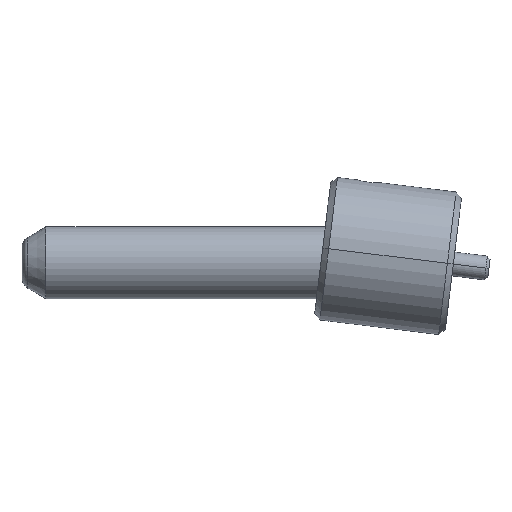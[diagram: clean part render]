
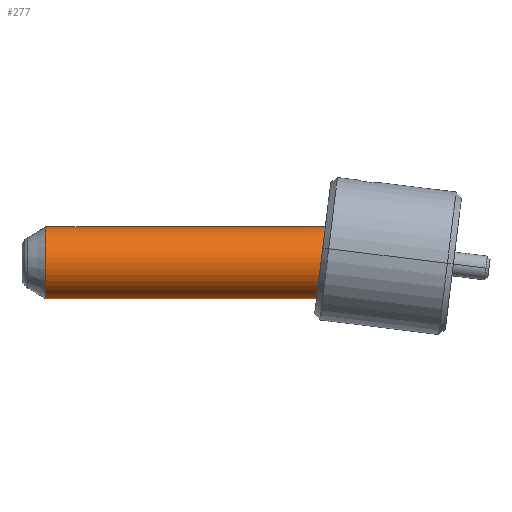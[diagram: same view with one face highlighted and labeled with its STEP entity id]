
A CAD part, left-side view. The second image highlights one B-rep face of the part: STEP entity #277.
In plain terms, the highlighted cylindrical face has radius 6 mm (diameter 12 mm), a partial arc.
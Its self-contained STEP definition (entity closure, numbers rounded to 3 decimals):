
#132=CARTESIAN_POINT('Vertex',(0.,-6.,-1.)) ;
#139=CARTESIAN_POINT('Vertex',(0.,6.,-1.)) ;
#159=CARTESIAN_POINT('Axis2P3D Location',(0.,0.,-1.)) ;
#176=CARTESIAN_POINT('Line Origine',(0.,6.,3.4)) ;
#180=CARTESIAN_POINT('Vertex',(0.,6.,-8.)) ;
#183=CARTESIAN_POINT('Line Origine',(0.,-6.,3.4)) ;
#187=CARTESIAN_POINT('Vertex',(0.,-6.,-64.)) ;
#206=CARTESIAN_POINT('Vertex',(0.,6.,-64.)) ;
#209=CARTESIAN_POINT('Line Origine',(0.,6.,3.4)) ;
#213=CARTESIAN_POINT('Vertex',(0.,6.,-12.)) ;
#242=CARTESIAN_POINT('Axis2P3D Location',(0.,0.,3.4)) ;
#247=CARTESIAN_POINT('Axis2P3D Location',(0.,0.,-64.)) ;
#253=CARTESIAN_POINT('Control Point',(0.,6.,-8.)) ;
#254=CARTESIAN_POINT('Control Point',(-0.274,6.,-8.)) ;
#255=CARTESIAN_POINT('Control Point',(-0.544,5.984,-8.046)) ;
#256=CARTESIAN_POINT('Control Point',(-0.808,5.953,-8.14)) ;
#257=CARTESIAN_POINT('Control Point',(-1.344,5.86,-8.442)) ;
#258=CARTESIAN_POINT('Control Point',(-1.735,5.749,-8.921)) ;
#259=CARTESIAN_POINT('Control Point',(-1.895,5.694,-9.231)) ;
#260=CARTESIAN_POINT('Control Point',(-2.09,5.625,-9.981)) ;
#261=CARTESIAN_POINT('Control Point',(-1.927,5.683,-10.746)) ;
#262=CARTESIAN_POINT('Control Point',(-1.731,5.754,-11.123)) ;
#263=CARTESIAN_POINT('Control Point',(-1.29,5.877,-11.614)) ;
#264=CARTESIAN_POINT('Control Point',(-0.704,5.965,-11.895)) ;
#265=CARTESIAN_POINT('Control Point',(-0.474,5.988,-11.965)) ;
#266=CARTESIAN_POINT('Control Point',(-0.239,6.,-12.)) ;
#267=CARTESIAN_POINT('Control Point',(0.,6.,-12.)) ;
#160=DIRECTION('Axis2P3D Direction',(0.,0.,-1.)) ;
#177=DIRECTION('Vector Direction',(0.,0.,-1.)) ;
#184=DIRECTION('Vector Direction',(0.,0.,-1.)) ;
#210=DIRECTION('Vector Direction',(0.,0.,-1.)) ;
#243=DIRECTION('Axis2P3D Direction',(0.,0.,-1.)) ;
#244=DIRECTION('Axis2P3D XDirection',(0.,-1.,0.)) ;
#248=DIRECTION('Axis2P3D Direction',(0.,0.,-1.)) ;
#161=AXIS2_PLACEMENT_3D('Circle Axis2P3D',#159,#160,$) ;
#245=AXIS2_PLACEMENT_3D('Cylinder Axis2P3D',#242,#243,#244) ;
#249=AXIS2_PLACEMENT_3D('Circle Axis2P3D',#247,#248,$) ;
#270=ORIENTED_EDGE('',*,*,#215,.F.) ;
#271=ORIENTED_EDGE('',*,*,#251,.T.) ;
#272=ORIENTED_EDGE('',*,*,#189,.T.) ;
#273=ORIENTED_EDGE('',*,*,#163,.F.) ;
#274=ORIENTED_EDGE('',*,*,#182,.F.) ;
#275=ORIENTED_EDGE('',*,*,#268,.T.) ;
#178=VECTOR('Line Direction',#177,1.) ;
#185=VECTOR('Line Direction',#184,1.) ;
#211=VECTOR('Line Direction',#210,1.) ;
#277=ADVANCED_FACE('MANIFOLD_SOLID_BREP #377',(#276),#246,.T.) ;
#252=B_SPLINE_CURVE_WITH_KNOTS('',5,(#253,#254,#255,#256,#257,#258,#259,#260,#261,#262,#263,#264,#265,#266,#267),.UNSPECIFIED.,.F.,.U.,(6,3,3,3,6),(0.,1.941,4.368,7.278,8.958),.UNSPECIFIED.) ;
#162=CIRCLE('generated circle',#161,6.) ;
#250=CIRCLE('generated circle',#249,6.) ;
#246=CYLINDRICAL_SURFACE('generated cylinder',#245,6.) ;
#163=EDGE_CURVE('',#140,#133,#162,.F.) ;
#182=EDGE_CURVE('',#181,#140,#179,.F.) ;
#189=EDGE_CURVE('',#188,#133,#186,.F.) ;
#215=EDGE_CURVE('',#207,#214,#212,.F.) ;
#251=EDGE_CURVE('',#207,#188,#250,.F.) ;
#268=EDGE_CURVE('',#181,#214,#252,.T.) ;
#269=EDGE_LOOP('',(#270,#271,#272,#273,#274,#275)) ;
#276=FACE_OUTER_BOUND('',#269,.T.) ;
#179=LINE('Line',#176,#178) ;
#186=LINE('Line',#183,#185) ;
#212=LINE('Line',#209,#211) ;
#133=VERTEX_POINT('',#132) ;
#140=VERTEX_POINT('',#139) ;
#181=VERTEX_POINT('',#180) ;
#188=VERTEX_POINT('',#187) ;
#207=VERTEX_POINT('',#206) ;
#214=VERTEX_POINT('',#213) ;
